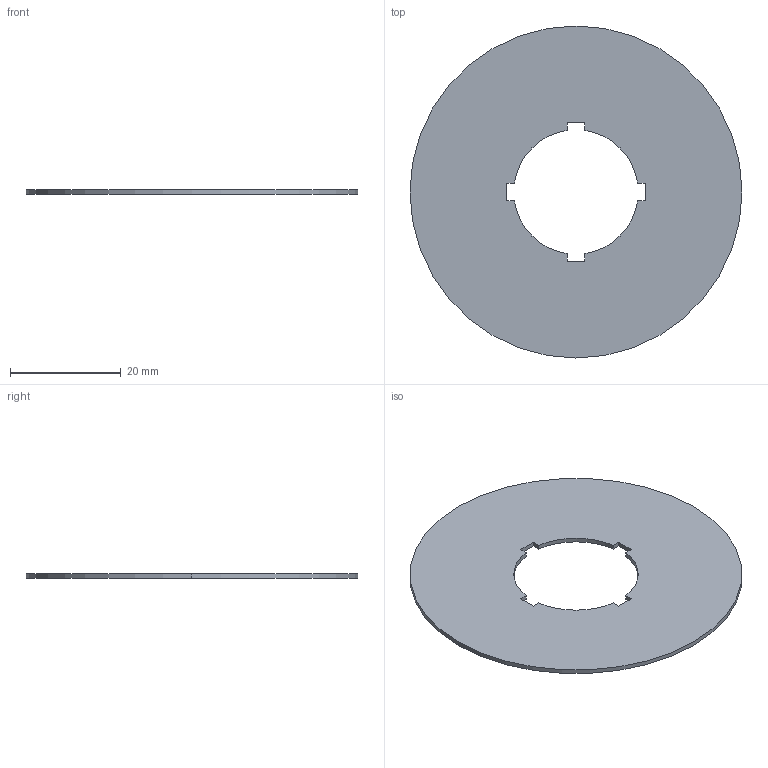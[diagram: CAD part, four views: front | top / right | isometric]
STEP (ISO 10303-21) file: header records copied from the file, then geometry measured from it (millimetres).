
FILE_DESCRIPTION( ( '' ), '1' );
FILE_NAME( '//expscmdclustefs.cadenas.external/client_exchange/iodir/jobs/output/wkb45967132_no0/STEP/216483_2_03.stp', '2012-06-14T13:19:20', ( '' ), ( '' ), ' ', ' ', ' ' );
FILE_SCHEMA( ( 'CONFIG_CONTROL_DESIGN' ) );
Length unit declared in the file: millimetre
Products named in the file (1): 1
Bounding box: 60 x 60 x 0.8 mm (x, y, z)
Volume: 1930.7 mm3; surface area: 5042.7 mm2
Topology: 1 solids, 1 shells, 20 faces, 54 edges, 36 vertices
Faces by surface type: plane 14, cylinder 6
Entity records: 678 total; most frequent: CARTESIAN_POINT 111, DIRECTION 108, ORIENTED_EDGE 108, EDGE_CURVE 54, LINE 42, VECTOR 42, VERTEX_POINT 36, AXIS2_PLACEMENT_3D 33
